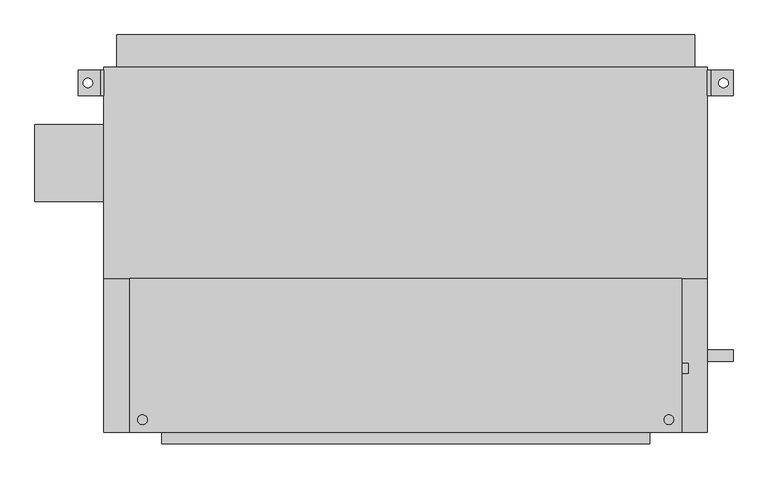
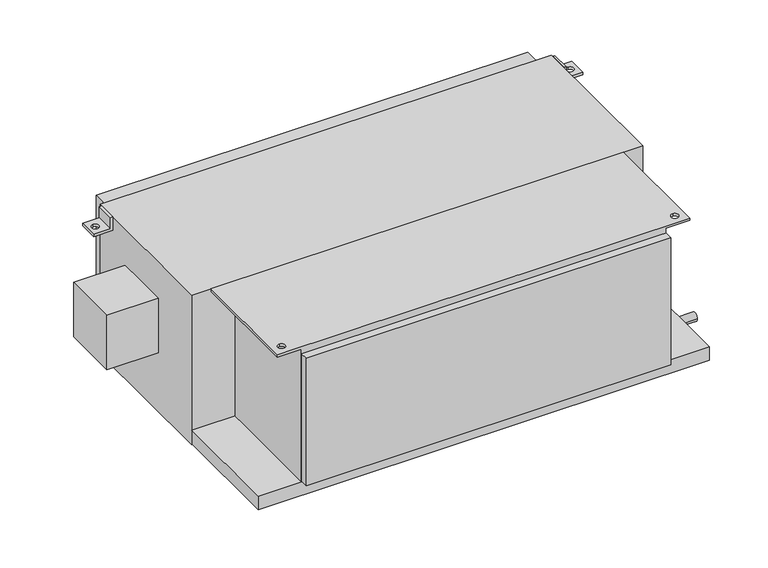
"""IFC4 building model written with IfcOpenShell, lengths in millimetres: proxy geometry, Concealed_High_Capacity_Horizontal_Fan_Coil_Unit_With_Plenum_-_42DCA_-_CARRIER_-_2-Pipe_Cool-EHeat_RH_2022 : Size 16 - 277v/60Hz/1Ph - 6 Row 12.0kW."""

from ifc_helpers import new_model, si_unit, point, frame, frame_2d, origin, place, context, project, spatial, polyline, circle_curve, trimmed, segment, composite_curve, outline, extrude, source, transform, mapped, element, save
from ifc_brep_helpers import plane_surface, revolved_surface, advanced_brep


def mechanical_equipment_94f2105f(model_context):
    return source(origin(), model_context, "Body", "SolidModel", [
        advanced_brep(
        [(-444.5, 327.025, -38.1), (-495.3, 327.025, -38.1), (-495.3, 327.025, -31.75), (-450.85, 327.025, -31.75), (-450.85, 327.025, 0.0), (-444.5, 327.025, 0.0), (-444.5, 276.225, -38.1), (-444.5, 276.225, 0.0), (-450.85, 276.225, 0.0), (-450.85, 276.225, -31.75), (-495.3, 276.225, -31.75), (-495.3, 276.225, -38.1), (-476.25, 292.1, -38.1), (-476.25, 311.15, -38.1), (-476.25, 311.15, -31.75), (-476.25, 292.1, -31.75)],
        [
            (0, 1),
            (1, 2),
            (2, 3),
            (3, 4),
            (4, 5),
            (5, 0),
            (6, 7),
            (7, 8),
            (8, 9),
            (9, 10),
            (10, 11),
            (11, 6),
            (0, 6),
            (11, 1),
            (12, 13, circle_curve(frame((-476.25, 301.625, -38.1), z_axis=(0.0, 0.0, 1.0), x_axis=(0.0, -1.0, 0.0)), 9.525)),
            (13, 12, circle_curve(frame((-476.25, 301.625, -38.1), z_axis=(0.0, 0.0, 1.0), x_axis=(0.0, -1.0, 0.0)), 9.525)),
            (10, 2),
            (9, 3),
            (14, 15, circle_curve(frame((-476.25, 301.625, -31.75), z_axis=(0.0, 0.0, -1.0), x_axis=(0.0, -1.0, 0.0)), 9.525)),
            (15, 14, circle_curve(frame((-476.25, 301.625, -31.75), z_axis=(0.0, 0.0, -1.0), x_axis=(0.0, -1.0, 0.0)), 9.525)),
            (8, 4),
            (7, 5),
            (14, 13),
            (12, 15),
        ],
        [
            plane_surface(frame((-444.5, 327.025, -38.1), z_axis=(0.0, 1.0, 0.0), x_axis=(-1.0, 0.0, 0.0))),
            plane_surface(frame((-444.5, 276.225, -38.1), z_axis=(0.0, -1.0, 0.0), x_axis=(1.0, 0.0, 0.0))),
            plane_surface(frame((-444.5, 327.025, -38.1), z_axis=(0.0, 0.0, -1.0), x_axis=(0.0, -1.0, 0.0))),
            plane_surface(frame((-495.3, 327.025, -38.1), z_axis=(-1.0, 0.0, 0.0), x_axis=(0.0, -1.0, 0.0))),
            plane_surface(frame((-495.3, 327.025, -31.75), z_axis=(0.0, 0.0, 1.0), x_axis=(0.0, -1.0, 0.0))),
            plane_surface(frame((-450.85, 327.025, -31.75), z_axis=(-1.0, 0.0, 0.0), x_axis=(0.0, -1.0, 0.0))),
            plane_surface(frame((-450.85, 327.025, 0.0), z_axis=(0.0, 0.0, 1.0), x_axis=(0.0, -1.0, 0.0))),
            plane_surface(frame((-444.5, 327.025, 0.0), z_axis=(1.0, 0.0, 0.0), x_axis=(0.0, -1.0, 0.0))),
            revolved_surface(polyline([(-476.25, 292.1, -38.1), (-476.25, 292.1, -31.75)]), (-476.25, 301.625, -31.75), (0.0, 0.0, -1.0)),
        ],
        [
            (0, [[1, 2, 3, 4, 5, 6]]),
            (1, [[7, 8, 9, 10, 11, 12]]),
            (2, [[-1, 13, -12, 14], [15, 16]]),
            (3, [[-2, -14, -11, 17]]),
            (4, [[-3, -17, -10, 18], [19, 20]]),
            (5, [[-4, -18, -9, 21]]),
            (6, [[-5, -21, -8, 22]]),
            (7, [[-6, -22, -7, -13]]),
            (8, [[23, -15, 24, -19]]),
            (8, [[-23, -20, -24, -16]]),
        ],
    ),
        advanced_brep(
        [(749.3, 327.025, -38.1), (749.3, 327.025, 0.0), (755.65, 327.025, 0.0), (755.65, 327.025, -31.75), (800.1, 327.025, -31.75), (800.1, 327.025, -38.1), (749.3, 276.225, -38.1), (800.1, 276.225, -38.1), (800.1, 276.225, -31.75), (755.65, 276.225, -31.75), (755.65, 276.225, 0.0), (749.3, 276.225, 0.0), (781.05, 311.15, -31.75), (781.05, 292.1, -31.75), (781.05, 292.1, -38.1), (781.05, 311.15, -38.1)],
        [
            (0, 1),
            (1, 2),
            (2, 3),
            (3, 4),
            (4, 5),
            (5, 0),
            (6, 7),
            (7, 8),
            (8, 9),
            (9, 10),
            (10, 11),
            (11, 6),
            (0, 6),
            (11, 1),
            (10, 2),
            (9, 3),
            (8, 4),
            (12, 13, circle_curve(frame((781.05, 301.625, -31.75), z_axis=(0.0, 0.0, -1.0), x_axis=(0.0, -1.0, 0.0)), 9.525)),
            (13, 12, circle_curve(frame((781.05, 301.625, -31.75), z_axis=(0.0, 0.0, -1.0), x_axis=(0.0, -1.0, 0.0)), 9.525)),
            (7, 5),
            (14, 15, circle_curve(frame((781.05, 301.625, -38.1), z_axis=(0.0, 0.0, 1.0), x_axis=(0.0, -1.0, 0.0)), 9.525)),
            (15, 14, circle_curve(frame((781.05, 301.625, -38.1), z_axis=(0.0, 0.0, 1.0), x_axis=(0.0, -1.0, 0.0)), 9.525)),
            (12, 15),
            (14, 13),
        ],
        [
            plane_surface(frame((-444.5, 327.025, -38.1), z_axis=(0.0, 1.0, 0.0), x_axis=(-1.0, 0.0, 0.0))),
            plane_surface(frame((-444.5, 276.225, -38.1), z_axis=(0.0, -1.0, 0.0), x_axis=(1.0, 0.0, 0.0))),
            plane_surface(frame((749.3, 327.025, -38.1), z_axis=(-1.0, 0.0, 0.0), x_axis=(0.0, -1.0, 0.0))),
            plane_surface(frame((749.3, 327.025, 0.0), z_axis=(0.0, 0.0, 1.0), x_axis=(0.0, -1.0, 0.0))),
            plane_surface(frame((755.65, 327.025, 0.0), z_axis=(1.0, 0.0, 0.0), x_axis=(0.0, -1.0, 0.0))),
            plane_surface(frame((755.65, 327.025, -31.75), z_axis=(0.0, 0.0, 1.0), x_axis=(0.0, -1.0, 0.0))),
            plane_surface(frame((800.1, 327.025, -31.75), z_axis=(1.0, 0.0, 0.0), x_axis=(0.0, -1.0, 0.0))),
            plane_surface(frame((800.1, 327.025, -38.1), z_axis=(0.0, 0.0, -1.0), x_axis=(0.0, -1.0, 0.0))),
            revolved_surface(polyline([(781.05, 292.1, -38.1), (781.05, 292.1, -31.75)]), (781.05, 301.625, -31.75), (0.0, 0.0, -1.0)),
        ],
        [
            (0, [[1, 2, 3, 4, 5, 6]]),
            (1, [[7, 8, 9, 10, 11, 12]]),
            (2, [[-1, 13, -12, 14]]),
            (3, [[-2, -14, -11, 15]]),
            (4, [[-3, -15, -10, 16]]),
            (5, [[-4, -16, -9, 17], [18, 19]]),
            (6, [[-5, -17, -8, 20]]),
            (7, [[-6, -20, -7, -13], [21, 22]]),
            (8, [[23, -21, 24, -18]]),
            (8, [[-23, -19, -24, -22]]),
        ],
    ),
        advanced_brep(
        [(635.0, -85.725, -377.825), (635.0, -390.525, -377.825), (-330.2, -390.525, -377.825), (-330.2, -85.725, -377.825), (-330.2, -390.525, -6.35), (-330.2, -85.725, -6.35), (635.0, -85.725, -6.35), (635.0, -390.525, -6.35), (-393.7, -85.725, -6.35), (-393.7, -390.525, -6.35), (-368.3, -355.6, -6.35), (-368.3, -374.65, -6.35), (698.5, -85.725, -6.35), (698.5, -390.525, -6.35), (673.1, -355.6, -6.35), (673.1, -374.65, -6.35), (-393.7, -85.725, 0.0), (-393.7, -390.525, 0.0), (698.5, -390.525, 0.0), (698.5, -85.725, 0.0), (-368.3, -374.65, 0.0), (-368.3, -355.6, 0.0), (673.1, -374.65, 0.0), (673.1, -355.6, 0.0)],
        [
            (0, 1),
            (1, 2),
            (2, 3),
            (3, 0),
            (2, 4),
            (4, 5),
            (5, 3),
            (0, 6),
            (6, 7),
            (7, 1),
            (8, 5),
            (4, 9),
            (9, 8),
            (10, 11, circle_curve(frame((-368.3, -365.125, -6.35), z_axis=(0.0, 0.0, 1.0), x_axis=(0.0, 1.0, 0.0)), 9.525)),
            (11, 10, circle_curve(frame((-368.3, -365.125, -6.35), z_axis=(0.0, 0.0, 1.0), x_axis=(0.0, 1.0, 0.0)), 9.525)),
            (12, 13),
            (13, 7),
            (6, 12),
            (14, 15, circle_curve(frame((673.1, -365.125, -6.35), z_axis=(0.0, 0.0, 1.0), x_axis=(0.0, 1.0, 0.0)), 9.525)),
            (15, 14, circle_curve(frame((673.1, -365.125, -6.35), z_axis=(0.0, 0.0, 1.0), x_axis=(0.0, 1.0, 0.0)), 9.525)),
            (16, 17),
            (17, 18),
            (18, 19),
            (19, 16),
            (20, 21, circle_curve(frame((-368.3, -365.125, 0.0), z_axis=(0.0, 0.0, -1.0), x_axis=(0.0, 1.0, 0.0)), 9.525)),
            (21, 20, circle_curve(frame((-368.3, -365.125, 0.0), z_axis=(0.0, 0.0, -1.0), x_axis=(0.0, 1.0, 0.0)), 9.525)),
            (22, 23, circle_curve(frame((673.1, -365.125, 0.0), z_axis=(0.0, 0.0, -1.0), x_axis=(0.0, 1.0, 0.0)), 9.525)),
            (23, 22, circle_curve(frame((673.1, -365.125, 0.0), z_axis=(0.0, 0.0, -1.0), x_axis=(0.0, 1.0, 0.0)), 9.525)),
            (9, 17),
            (16, 8),
            (13, 18),
            (19, 12),
            (20, 11),
            (10, 21),
            (22, 15),
            (14, 23),
        ],
        [
            plane_surface(frame((-330.2, -85.725, -377.825), z_axis=(0.0, 0.0, -1.0), x_axis=(1.0, 0.0, 0.0))),
            plane_surface(frame((-330.2, -85.725, 0.0), z_axis=(-1.0, 0.0, 0.0), x_axis=(0.0, 0.0, -1.0))),
            plane_surface(frame((635.0, -390.525, 0.0), z_axis=(1.0, 0.0, 0.0), x_axis=(0.0, 0.0, -1.0))),
            plane_surface(frame((-393.7, -85.725, -6.35), z_axis=(0.0, 0.0, -1.0), x_axis=(0.0, 1.0, 0.0))),
            plane_surface(frame((-393.7, -85.725, 0.0), z_axis=(0.0, 0.0, 1.0), x_axis=(0.0, -1.0, 0.0))),
            plane_surface(frame((-393.7, -85.725, 0.0), z_axis=(-1.0, 0.0, 0.0), x_axis=(0.0, 0.0, -1.0))),
            plane_surface(frame((-393.7, -390.525, 0.0), z_axis=(0.0, -1.0, 0.0), x_axis=(0.0, 0.0, -1.0))),
            plane_surface(frame((-330.2, -85.725, 0.0), z_axis=(0.0, 1.0, 0.0), x_axis=(0.0, 0.0, -1.0))),
            plane_surface(frame((698.5, -390.525, 0.0), z_axis=(1.0, 0.0, 0.0), x_axis=(0.0, 0.0, -1.0))),
            revolved_surface(polyline([(-368.3, -355.6, -6.35), (-368.3, -355.6, 0.0)]), (-368.3, -365.125, 0.0), (0.0, 0.0, -1.0)),
            revolved_surface(polyline([(673.1, -355.6, -6.35), (673.1, -355.6, 0.0)]), (673.1, -365.125, 0.0), (0.0, 0.0, -1.0)),
        ],
        [
            (0, [[1, 2, 3, 4]]),
            (1, [[-3, 5, 6, 7]]),
            (2, [[-1, 8, 9, 10]]),
            (3, [[11, -6, 12, 13], [14, 15]]),
            (3, [[16, 17, -9, 18], [19, 20]]),
            (4, [[21, 22, 23, 24], [25, 26], [27, 28]]),
            (5, [[-13, 29, -21, 30]]),
            (6, [[-12, -5, -2, -10, -17, 31, -22, -29]]),
            (7, [[-11, -30, -24, 32, -18, -8, -4, -7]]),
            (8, [[-16, -32, -23, -31]]),
            (9, [[33, -14, 34, -25]]),
            (9, [[-33, -26, -34, -15]]),
            (10, [[35, -19, 36, -27]]),
            (10, [[-35, -28, -36, -20]]),
        ],
    ),
        extrude(outline(polyline([(-419.1, 396.875), (723.9, 396.875), (723.9, 333.375), (-419.1, 333.375), (-419.1, 396.875)])), frame((0.0, 0.0, -381.0), z_axis=(0.0, 0.0, 1.0), x_axis=(1.0, 0.0, 0.0)), (0.0, 0.0, 1.0), 358.775),
        extrude(outline(composite_curve([segment(trimmed(circle_curve(frame_2d((-263.525, -76.2)), 9.525), [point((-254.0, -76.2))], [point((-273.05, -76.2))], False, "CARTESIAN"), True, "CONTINUOUS"), segment(trimmed(circle_curve(frame_2d((-263.525, -76.2)), 9.525), [point((-273.05, -76.2))], [point((-254.0, -76.2))], False, "CARTESIAN"), True, "CONTINUOUS")], self_intersect=False)), frame((635.0, 0.0, 0.0), z_axis=(1.0, 0.0, 0.0), x_axis=(0.0, 1.0, 0.0)), (0.0, 0.0, 1.0), 76.2),
        extrude(outline(composite_curve([segment(trimmed(circle_curve(frame_2d((-263.525, -301.625)), 9.525), [point((-254.0, -301.625))], [point((-273.05, -301.625))], False, "CARTESIAN"), True, "CONTINUOUS"), segment(trimmed(circle_curve(frame_2d((-263.525, -301.625)), 9.525), [point((-273.05, -301.625))], [point((-254.0, -301.625))], False, "CARTESIAN"), True, "CONTINUOUS")], self_intersect=False)), frame((635.0, 0.0, 0.0), z_axis=(1.0, 0.0, 0.0), x_axis=(0.0, 1.0, 0.0)), (0.0, 0.0, 1.0), 76.2),
        extrude(outline(composite_curve([segment(trimmed(circle_curve(frame_2d((-238.125, -403.225)), 11.1125), [point((-227.0125, -403.225))], [point((-249.2375, -403.225))], False, "CARTESIAN"), True, "CONTINUOUS"), segment(trimmed(circle_curve(frame_2d((-238.125, -403.225)), 11.1125), [point((-249.2375, -403.225))], [point((-227.0125, -403.225))], False, "CARTESIAN"), True, "CONTINUOUS")], self_intersect=False)), frame((749.3, 0.0, 0.0), z_axis=(1.0, 0.0, 0.0), x_axis=(0.0, 1.0, 0.0)), (0.0, 0.0, 1.0), 50.8),
        extrude(outline(polyline([(-581.025, 66.675), (-581.025, 219.075), (-444.5, 219.075), (-444.5, 66.675), (-581.025, 66.675)])), frame((0.0, 0.0, -254.0), z_axis=(0.0, 0.0, 1.0), x_axis=(1.0, 0.0, 0.0)), (0.0, 0.0, 1.0), 152.4),
        extrude(outline(polyline([(635.0, -412.75), (-330.2, -412.75), (-330.2, -390.525), (635.0, -390.525), (635.0, -412.75)])), frame((0.0, 0.0, -374.65), z_axis=(0.0, 0.0, 1.0), x_axis=(1.0, 0.0, 0.0)), (0.0, 0.0, 1.0), 355.6),
        extrude(outline(polyline([(749.3, -85.725), (-444.5, -85.725), (-444.5, 333.375), (749.3, 333.375), (749.3, -85.725)])), frame((0.0, 0.0, -419.1), z_axis=(0.0, 0.0, 1.0), x_axis=(1.0, 0.0, 0.0)), (0.0, 0.0, 1.0), 419.1),
        extrude(outline(polyline([(749.3, -85.725), (749.3, -390.525), (-444.5, -390.525), (-444.5, -85.725), (749.3, -85.725)])), frame((0.0, 0.0, -415.925), z_axis=(0.0, 0.0, 1.0), x_axis=(1.0, 0.0, 0.0)), (0.0, 0.0, 1.0), 38.1),
    ])


if __name__ == "__main__":
    model = new_model("IFC4")
    model_context = context("Model", 3, world=origin())
    ifc_project = project(units=[si_unit("LENGTHUNIT", "METRE", prefix="MILLI")], contexts=[model_context])
    site = spatial("IfcSite", under=ifc_project)
    building = spatial("IfcBuilding", under=site)
    placement = place(None, origin())
    mechanical_equipment_shape = mechanical_equipment_94f2105f(model_context)
    element("IfcBuildingElementProxy", 1, Name="Concealed_High_Capacity_Horizontal_Fan_Coil_Unit_With_Plenum_-_42DCA_-_CARRIER_-_2-Pipe_Cool-EHeat_RH_2022 : Size 16 - 277v/60Hz/1Ph - 6 Row 12.0kW", ObjectType="Concealed_High_Capacity_Horizontal_Fan_Coil_Unit_With_Plenum_-_42DCA_-_CARRIER_-_2-Pipe_Cool-EHeat_RH_2022 : Size 16 - 277v/60Hz/1Ph - 6 Row 12.0kW", at=placement, inside=building, context=model_context, shape_type="MappedRepresentation", body=[
        mapped(mechanical_equipment_shape, transform((0.0, 0.0, 0.0), x_axis=(1.0, 0.0, 0.0), y_axis=(0.0, 1.0, 0.0), z_axis=(0.0, 0.0, 1.0))),
    ])
    save(model, "model.ifc")
